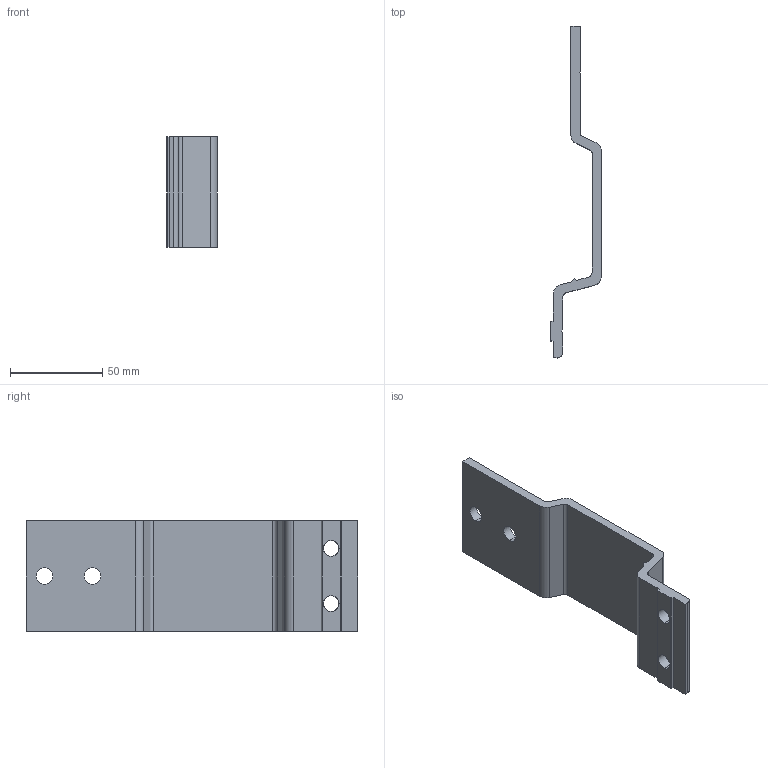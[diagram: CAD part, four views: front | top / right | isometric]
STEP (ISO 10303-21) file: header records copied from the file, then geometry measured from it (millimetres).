
FILE_DESCRIPTION (( 'STEP AP214' ), '1' );
FILE_NAME ('FAVBS 60K.step', '2017-04-05T08:00:06', ( '' ), ( '' ), 'SwSTEP 2.0', 'SolidWorks 2015', '' );
FILE_SCHEMA (( 'AUTOMOTIVE_DESIGN' ));
Length unit declared in the file: millimetre
Products named in the file (1): FAVBS 60K
Bounding box: 27.5 x 180 x 60 mm (x, y, z)
Volume: 60253.2 mm3; surface area: 27058.1 mm2
Topology: 1 solids, 1 shells, 50 faces, 146 edges, 96 vertices
Faces by surface type: plane 31, cylinder 19
Entity records: 1706 total; most frequent: CARTESIAN_POINT 317, ORIENTED_EDGE 292, DIRECTION 278, EDGE_CURVE 146, VECTOR 100, LINE 100, VERTEX_POINT 96, AXIS2_PLACEMENT_3D 89
